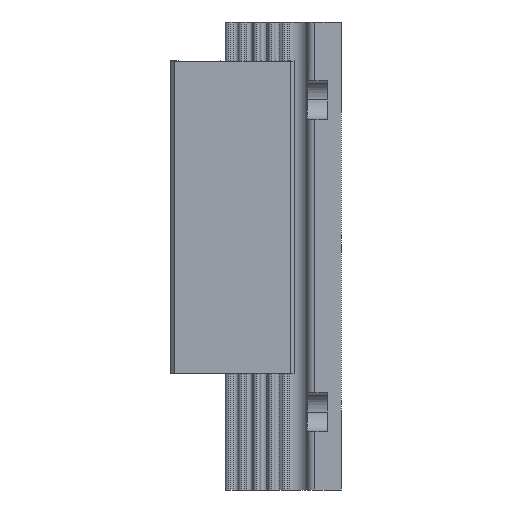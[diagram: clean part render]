
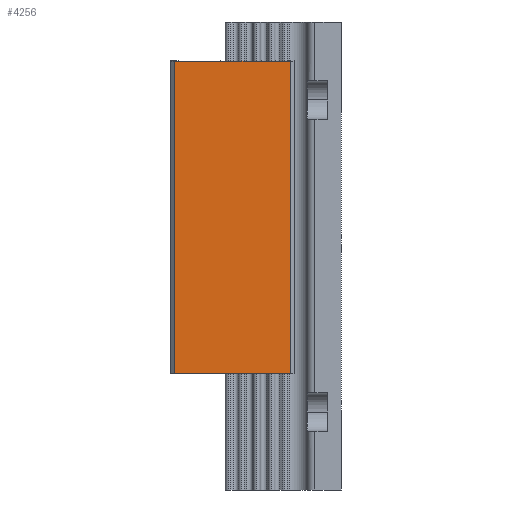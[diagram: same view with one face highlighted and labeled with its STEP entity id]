
A CAD part, left-side view. The second image highlights one B-rep face of the part: STEP entity #4256.
In plain terms, the highlighted planar face has unit normal (-1, 0, 0).
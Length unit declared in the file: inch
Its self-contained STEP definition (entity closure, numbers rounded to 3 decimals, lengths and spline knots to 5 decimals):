
#741 = VECTOR ( 'NONE', #10001, 39.37008 ) ;
#781 = VECTOR ( 'NONE', #13064, 39.37008 ) ;
#1632 = ORIENTED_EDGE ( 'NONE', *, *, #3409, .T. ) ;
#2160 = CARTESIAN_POINT ( 'NONE',  ( -0.5625, 0.15576, 0. ) ) ;
#2255 = PLANE ( 'NONE',  #8034 ) ;
#2467 = DIRECTION ( 'NONE',  ( 0., 0., 1. ) ) ;
#2507 = VERTEX_POINT ( 'NONE', #8404 ) ;
#2715 = CARTESIAN_POINT ( 'NONE',  ( -0.5625, -0.2145, 0. ) ) ;
#2740 = CARTESIAN_POINT ( 'NONE',  ( -0.5625, 0.5275, 0. ) ) ;
#2926 = VECTOR ( 'NONE', #11074, 39.37008 ) ;
#3409 = EDGE_CURVE ( 'NONE', #7221, #5943, #4029, .T. ) ;
#3479 = DIRECTION ( 'NONE',  ( -1., 0., 0. ) ) ;
#3654 = DIRECTION ( 'NONE',  ( 0., -1., 0. ) ) ;
#3659 = EDGE_CURVE ( 'NONE', #9996, #7221, #12359, .T. ) ;
#4029 = LINE ( 'NONE', #5436, #741 ) ;
#4256 = ADVANCED_FACE ( 'NONE', ( #11603 ), #2255, .T. ) ;
#4497 = EDGE_CURVE ( 'NONE', #2507, #9996, #9297, .T. ) ;
#5198 = EDGE_CURVE ( 'NONE', #2507, #5943, #6995, .T. ) ;
#5436 = CARTESIAN_POINT ( 'NONE',  ( -0.5625, -0.2145, 0. ) ) ;
#5672 = ORIENTED_EDGE ( 'NONE', *, *, #5198, .F. ) ;
#5943 = VERTEX_POINT ( 'NONE', #2715 ) ;
#6466 = CARTESIAN_POINT ( 'NONE',  ( -0.5625, 0.15576, -2. ) ) ;
#6995 = LINE ( 'NONE', #2160, #8932 ) ;
#7049 = ORIENTED_EDGE ( 'NONE', *, *, #4497, .T. ) ;
#7221 = VERTEX_POINT ( 'NONE', #10049 ) ;
#8034 = AXIS2_PLACEMENT_3D ( 'NONE', #12564, #3479, #2467 ) ;
#8404 = CARTESIAN_POINT ( 'NONE',  ( -0.5625, 0.5275, 0. ) ) ;
#8932 = VECTOR ( 'NONE', #3654, 39.37008 ) ;
#9297 = LINE ( 'NONE', #2740, #781 ) ;
#9768 = ORIENTED_EDGE ( 'NONE', *, *, #3659, .T. ) ;
#9996 = VERTEX_POINT ( 'NONE', #13368 ) ;
#10001 = DIRECTION ( 'NONE',  ( 0., 0., 1. ) ) ;
#10049 = CARTESIAN_POINT ( 'NONE',  ( -0.5625, -0.2145, -2. ) ) ;
#11074 = DIRECTION ( 'NONE',  ( 0., -1., 0. ) ) ;
#11603 = FACE_OUTER_BOUND ( 'NONE', #12021, .T. ) ;
#12021 = EDGE_LOOP ( 'NONE', ( #5672, #7049, #9768, #1632 ) ) ;
#12359 = LINE ( 'NONE', #6466, #2926 ) ;
#12564 = CARTESIAN_POINT ( 'NONE',  ( -0.5625, 0.5275, 0. ) ) ;
#13064 = DIRECTION ( 'NONE',  ( 0., 0., -1. ) ) ;
#13368 = CARTESIAN_POINT ( 'NONE',  ( -0.5625, 0.5275, -2. ) ) ;
